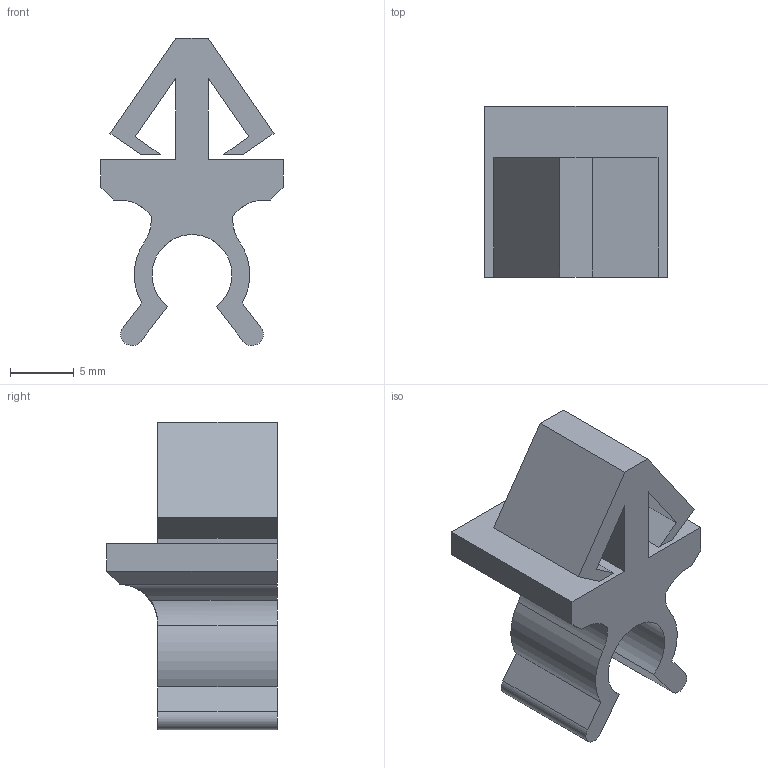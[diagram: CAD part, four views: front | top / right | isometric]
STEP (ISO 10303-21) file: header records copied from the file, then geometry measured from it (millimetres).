
FILE_DESCRIPTION (( 'STEP AP214' ), '1' );
FILE_NAME ('Hoodpropclip.STEP', '2015-07-01T06:41:05', ( '' ), ( '' ), 'SwSTEP 2.0', 'SolidWorks 2013', '' );
FILE_SCHEMA (( 'AUTOMOTIVE_DESIGN' ));
Length unit declared in the file: millimetre
Products named in the file (1): Hoodpropclip
Bounding box: 14.29 x 13.4 x 24.1 mm (x, y, z)
Volume: 1593.4 mm3; surface area: 1649.2 mm2
Topology: 1 solids, 1 shells, 45 faces, 121 edges, 78 vertices
Faces by surface type: plane 31, cylinder 13, bspline 1
Entity records: 1469 total; most frequent: CARTESIAN_POINT 301, ORIENTED_EDGE 242, DIRECTION 230, EDGE_CURVE 121, LINE 92, VECTOR 92, VERTEX_POINT 78, AXIS2_PLACEMENT_3D 69
